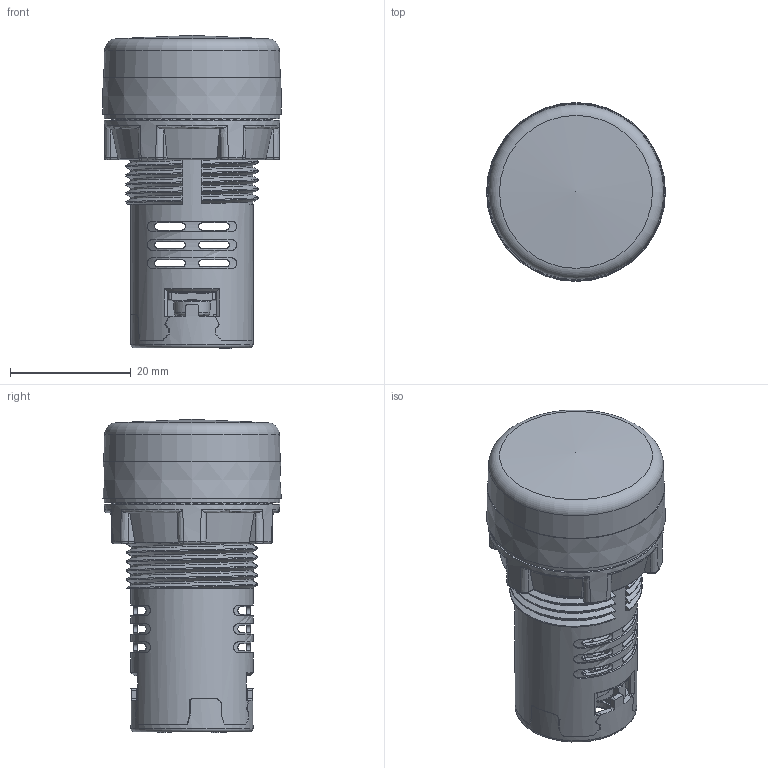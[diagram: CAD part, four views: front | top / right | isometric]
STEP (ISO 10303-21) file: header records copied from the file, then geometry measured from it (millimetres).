
FILE_DESCRIPTION(/* description */ (''),/* implementation_level */ '2;1');
FILE_NAME(/* name */ '指示灯11.25.stp',/* time_stamp */ '2024-11-25T11:02:21+08:00',/* author */ (''),/* organization */ (''),/* preprocessor_version */ 'ST-DEVELOPER v16.7',/* originating_system */ 'SIEMENS PLM Software NX 12.0',/* authorisation */ '');
FILE_SCHEMA (('AUTOMOTIVE_DESIGN { 1 0 10303 214 3 1 1 1 }'));
Length unit declared in the file: millimetre
Products named in the file (1): AdmiAACC00E06zvk
Bounding box: 29.6 x 29.6 x 51.8 mm (x, y, z)
Volume: 8667 mm3; surface area: 19721.4 mm2
Topology: 13 solids, 14 shells, 1380 faces, 3673 edges, 2352 vertices
Faces by surface type: plane 724, cylinder 419, bspline 170, torus 32, cone 31, sphere 4
Full cylindrical faces by diameter (mm): 0.6 x2, 0.9 x2, 1.3 x2, 2.9 x2, 3 x12, 3.1 x1, 3.65 x8, 5 x2, 6 x2, 6.3 x2, 16.6 x1, 17.8 x1, 19.5 x1, 19.9 x1, 20 x1, 20.2 x2, 20.6 x2, 21.9 x1, 22 x1, 22.1 x3, 23.5 x1, 26 x6, 27.1 x1, 27.2 x4, 29 x2
Entity records: 85735 total; most frequent: CARTESIAN_POINT 49714, ORIENTED_EDGE 7106, DIRECTION 5979, EDGE_CURVE 3553, VERTEX_POINT 2289, AXIS2_PLACEMENT_3D 2052, LINE 1875, VECTOR 1875
